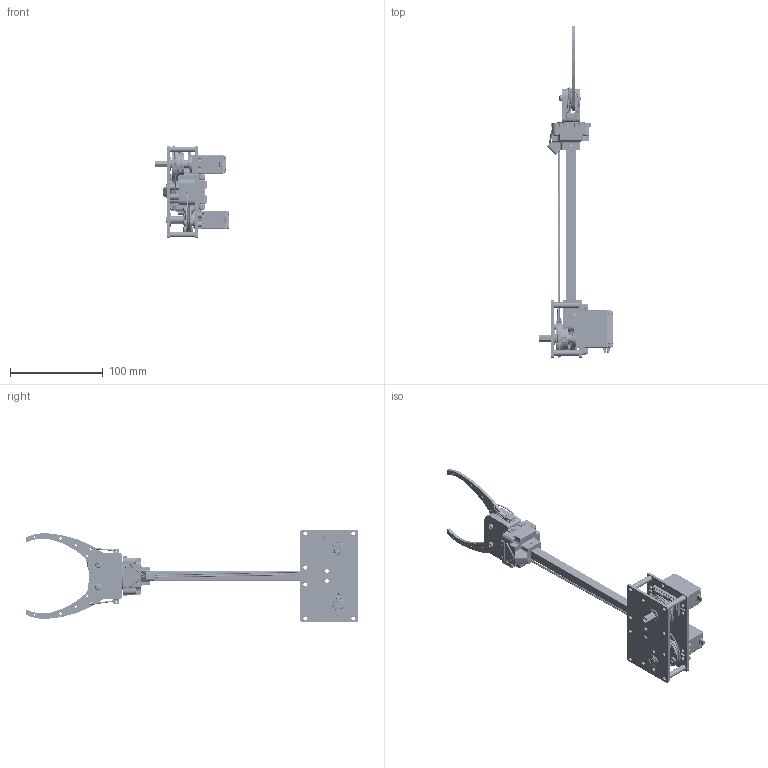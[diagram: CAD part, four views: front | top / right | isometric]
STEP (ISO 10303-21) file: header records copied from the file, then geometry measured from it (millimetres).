
FILE_DESCRIPTION( ('This file contains a STEP AP42 implementation' ,'as created by ZW3D STEP Interface translator.') ,'2;1' );
FILE_NAME( 'DemoGrabber.stp' ,'24 9 3.1328 2', (''), ('ZWCAD Software Co.'), 'Version 1.0', 'ZW3D to STEP translator', '' );
FILE_SCHEMA(('AUTOMOTIVE_DESIGN { 1 0 10303 214 1 1 1 1 }'));
Length unit declared in the file: millimetre
Products named in the file (32): 0; DemoGrabber; Palm; GearedFinger; UPulley; BL-EverythingBearing; BL-EBInnerRing; BL-EBOuterRing; BL-TSeal; BB2.5; UPulley2; M4-16-5.5; Wrist; M4-13-5.5; ServoRivet; CarbonFiberSquareTube; M4Button-10; M4Button-20; ArmBase; 2000-0025-0002; ServoHolder; 1906-0025-0032-Hub; 1922-0025-0036; Pulley3; Pulley4; ServoHolder2; 1611-0514-4008-Hex; M4-Spacer-27; M4-Spacer-27(Default); 1611-0514-0006-BB6; M4Button-8; M4-Spacer-27(Default)_M4-Spacer-4.Z3
Assembly tree (90 placements, depth 3):
  0
  DemoGrabber
    Palm
    GearedFinger
    UPulley  x2
    BL-EverythingBearing
      BL-EBInnerRing
      BL-EBOuterRing
      BL-TSeal
      BB2.5  x35
    UPulley2
    M4-16-5.5  x2
    Wrist
    M4-13-5.5  x4
    ServoRivet  x5
    CarbonFiberSquareTube
    M4Button-10  x4
    M4Button-20  x2
    ArmBase
    2000-0025-0002  x2
    ServoHolder
    1906-0025-0032-Hub
    1922-0025-0036
    Pulley3
    Pulley4
    ServoHolder2
    1611-0514-4008-Hex
    M4-Spacer-27  x4
    M4-Spacer-27(Default)  x4
    1611-0514-0006-BB6
    M4Button-8  x4
    M4-Spacer-27(Default)_M4-Spacer-4.Z3  x4
Bounding box: 80.4 x 358.11 x 100.08 mm (x, y, z)
Volume: 197429.3 mm3; surface area: 128056 mm2
Topology: 98 solids, 129 shells, 4119 faces, 11180 edges, 7302 vertices
Faces by surface type: cylinder 2039, plane 1226, bspline 342, cone 286, torus 181, sphere 45
Full cylindrical faces by diameter (mm): 1 x8, 1.5 x22, 2 x29, 2.018 x1, 2.5 x400, 2.631 x5, 2.705 x48, 2.716 x5, 3 x5, 3.3 x238, 4 x224, 4.058 x2, 5 x3, 6 x13, 6.8 x10, 8 x1, 14 x3, 23 x4, 24 x1, 28 x2, 29.5 x2, 30.5 x3, 32 x2, 38 x2
Entity records: 156770 total; most frequent: CARTESIAN_POINT 84360, ORIENTED_EDGE 15426, DIRECTION 13303, EDGE_CURVE 7736, VERTEX_POINT 4979, AXIS2_PLACEMENT_3D 4933, VECTOR 3437, LINE 3437
